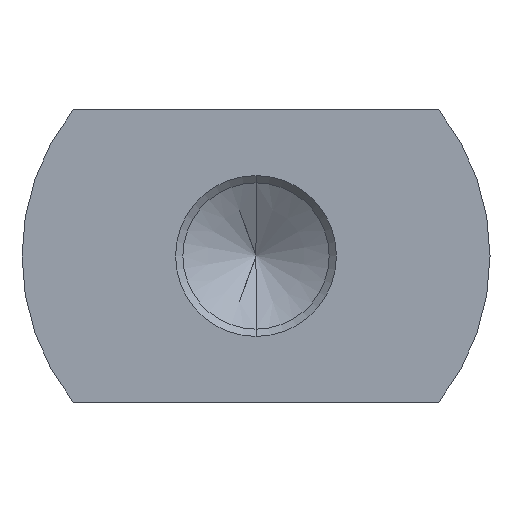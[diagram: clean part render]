
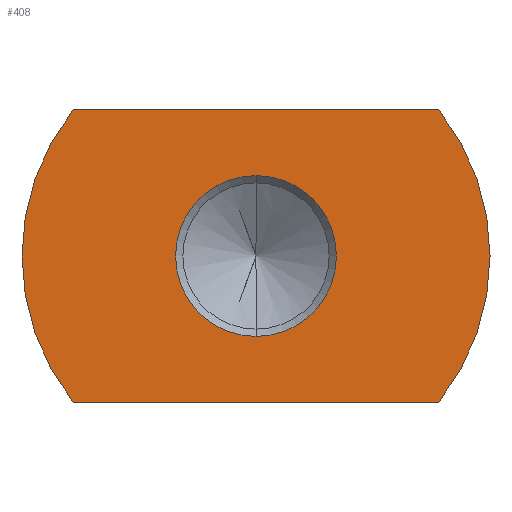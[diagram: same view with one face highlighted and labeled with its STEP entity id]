
A CAD part, front view. The second image highlights one B-rep face of the part: STEP entity #408.
In plain terms, the highlighted planar face has unit normal (0, -1, 0).
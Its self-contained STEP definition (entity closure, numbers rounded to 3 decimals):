
#7 = ORIENTED_EDGE ( 'NONE', *, *, #39, .T. ) ;
#12 = EDGE_CURVE ( 'NONE', #565, #192, #184, .T. ) ;
#13 = DIRECTION ( 'NONE',  ( 0., -1., 0. ) ) ;
#24 = DIRECTION ( 'NONE',  ( 0., -1., 0. ) ) ;
#30 = EDGE_LOOP ( 'NONE', ( #401, #41, #7, #31 ) ) ;
#31 = ORIENTED_EDGE ( 'NONE', *, *, #305, .T. ) ;
#34 = CIRCLE ( 'NONE', #471, 2.75 ) ;
#39 = EDGE_CURVE ( 'NONE', #192, #219, #73, .T. ) ;
#41 = ORIENTED_EDGE ( 'NONE', *, *, #12, .T. ) ;
#72 = CARTESIAN_POINT ( 'NONE',  ( -6.245, 0., -5. ) ) ;
#73 = CIRCLE ( 'NONE', #517, 8. ) ;
#93 = CARTESIAN_POINT ( 'NONE',  ( 6.245, 0., -5. ) ) ;
#96 = CARTESIAN_POINT ( 'NONE',  ( 0., 0., 2.75 ) ) ;
#107 = FACE_BOUND ( 'NONE', #161, .T. ) ;
#128 = CARTESIAN_POINT ( 'NONE',  ( 0., 0., -2.75 ) ) ;
#133 = DIRECTION ( 'NONE',  ( 0., -1., 0. ) ) ;
#156 = DIRECTION ( 'NONE',  ( 0., 0., -1. ) ) ;
#161 = EDGE_LOOP ( 'NONE', ( #528, #445 ) ) ;
#166 = VECTOR ( 'NONE', #421, 1000. ) ;
#168 = AXIS2_PLACEMENT_3D ( 'NONE', #195, #508, #282 ) ;
#181 = DIRECTION ( 'NONE',  ( 0., 0., -1. ) ) ;
#184 = LINE ( 'NONE', #283, #166 ) ;
#192 = VERTEX_POINT ( 'NONE', #527 ) ;
#195 = CARTESIAN_POINT ( 'NONE',  ( -8., 0., 0. ) ) ;
#205 = CARTESIAN_POINT ( 'NONE',  ( 6.245, 0., 5. ) ) ;
#219 = VERTEX_POINT ( 'NONE', #72 ) ;
#271 = EDGE_CURVE ( 'NONE', #387, #334, #34, .T. ) ;
#273 = DIRECTION ( 'NONE',  ( 1., 0., 0. ) ) ;
#282 = DIRECTION ( 'NONE',  ( 0., 0., 1. ) ) ;
#283 = CARTESIAN_POINT ( 'NONE',  ( -8., 0., 5. ) ) ;
#305 = EDGE_CURVE ( 'NONE', #219, #333, #417, .T. ) ;
#307 = AXIS2_PLACEMENT_3D ( 'NONE', #422, #133, #373 ) ;
#318 = CIRCLE ( 'NONE', #307, 2.75 ) ;
#333 = VERTEX_POINT ( 'NONE', #93 ) ;
#334 = VERTEX_POINT ( 'NONE', #128 ) ;
#360 = FACE_OUTER_BOUND ( 'NONE', #30, .T. ) ;
#366 = AXIS2_PLACEMENT_3D ( 'NONE', #568, #24, #156 ) ;
#368 = DIRECTION ( 'NONE',  ( 0., 0., -1. ) ) ;
#372 = CARTESIAN_POINT ( 'NONE',  ( 0., 0., 0. ) ) ;
#373 = DIRECTION ( 'NONE',  ( 0., 0., -1. ) ) ;
#387 = VERTEX_POINT ( 'NONE', #96 ) ;
#401 = ORIENTED_EDGE ( 'NONE', *, *, #549, .T. ) ;
#403 = EDGE_CURVE ( 'NONE', #334, #387, #318, .T. ) ;
#408 = ADVANCED_FACE ( 'NONE', ( #107, #360 ), #468, .F. ) ;
#417 = LINE ( 'NONE', #543, #488 ) ;
#421 = DIRECTION ( 'NONE',  ( -1., 0., 0. ) ) ;
#422 = CARTESIAN_POINT ( 'NONE',  ( 0., 0., 0. ) ) ;
#445 = ORIENTED_EDGE ( 'NONE', *, *, #271, .F. ) ;
#465 = CARTESIAN_POINT ( 'NONE',  ( 0., 0., 0. ) ) ;
#468 = PLANE ( 'NONE',  #168 ) ;
#471 = AXIS2_PLACEMENT_3D ( 'NONE', #372, #501, #181 ) ;
#488 = VECTOR ( 'NONE', #273, 1000. ) ;
#501 = DIRECTION ( 'NONE',  ( 0., -1., 0. ) ) ;
#508 = DIRECTION ( 'NONE',  ( 0., 1., 0. ) ) ;
#517 = AXIS2_PLACEMENT_3D ( 'NONE', #465, #13, #368 ) ;
#522 = CIRCLE ( 'NONE', #366, 8. ) ;
#527 = CARTESIAN_POINT ( 'NONE',  ( -6.245, 0., 5. ) ) ;
#528 = ORIENTED_EDGE ( 'NONE', *, *, #403, .F. ) ;
#543 = CARTESIAN_POINT ( 'NONE',  ( -8., 0., -5. ) ) ;
#549 = EDGE_CURVE ( 'NONE', #333, #565, #522, .T. ) ;
#565 = VERTEX_POINT ( 'NONE', #205 ) ;
#568 = CARTESIAN_POINT ( 'NONE',  ( 0., 0., 0. ) ) ;
